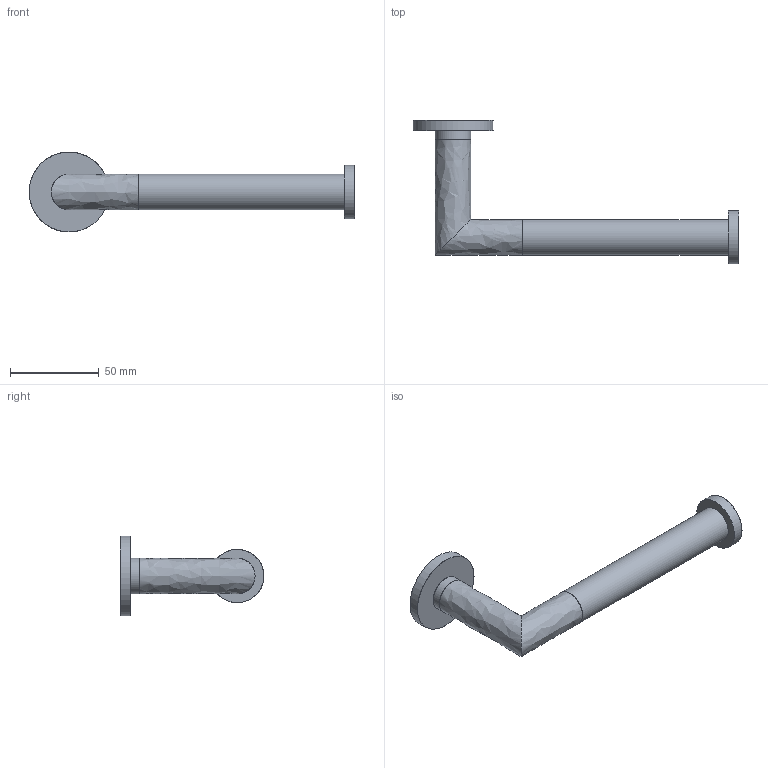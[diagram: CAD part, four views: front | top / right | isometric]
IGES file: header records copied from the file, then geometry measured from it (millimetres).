
Global section: file name: /Users/f/Desktop/I'/AE233.igs; native system: Rhinoceros ( Jul 22 2010 ); preprocessor: Trout Lake IGES 012 Jul 22 2010; date: 100727.160436; units: millimetre
Bounding box: 183.5 x 81 x 45 mm (x, y, z)
Surface area: 20795 mm2 (no closed solid volume)
Topology: 0 solids, 0 shells, 14 faces, 507 edges, 501 vertices
Faces by surface type: bspline 14
